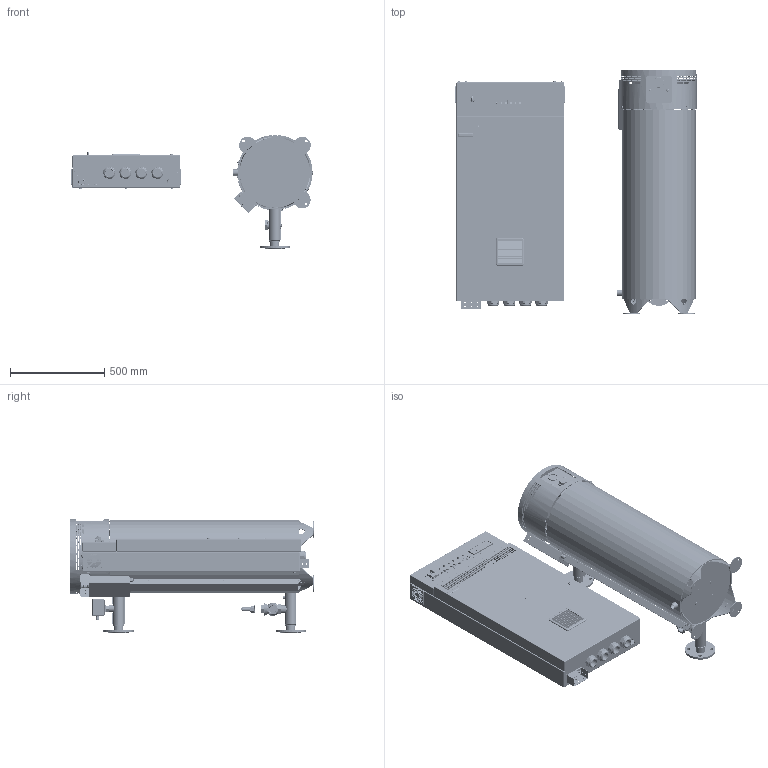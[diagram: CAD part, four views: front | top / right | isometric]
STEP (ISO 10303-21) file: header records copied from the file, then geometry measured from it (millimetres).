
FILE_DESCRIPTION(/* description */ (''),/* implementation_level */ '2;1');
FILE_NAME(/* name */ 'Z:\!!!Обмен файлами\Маркелова Л.В\Задача 193\150-200\Водонагреватель 150-200 кВт.stp',/* time_stamp */ '2023-07-10T13:51:04+03:00',/* author */ ('nvsk-constr2'),/* organization */ (''),/* preprocessor_version */ 'ST-DEVELOPER v18.1',/* originating_system */ 'Autodesk Inventor 2021',/* authorisation */ '');
FILE_SCHEMA (('AUTOMOTIVE_DESIGN { 1 0 10303 214 3 1 1 }'));
Products named in the file (3): Водонагреватель 
150-200 кВт; 421457.005 ШАУ-250_Shrinkwrap_1; 621179.009 АВП-НП-08_S
hrinkwrap_1
Assembly tree (2 placements, depth 2):
  Водонагреватель 
150-200 кВт
    421457.005 ШАУ-250_Shrinkwrap_1
    621179.009 АВП-НП-08_S
hrinkwrap_1
Bounding box: 1275.92 x 1289 x 603.84 mm (x, y, z)
Surface area: 12744231 mm2 (no closed solid volume)
Topology: 0 solids, 245 shells, 3791 faces, 12086 edges, 8400 vertices
Faces by surface type: plane 1909, cylinder 1228, cone 364, torus 178, bspline 68, sphere 44
Full cylindrical faces by diameter (mm): 2 x1, 3.242 x7, 4 x6, 4.317 x2, 4.5 x5, 4.917 x1, 5.5 x3, 5.9 x5, 6 x10, 6.5 x12, 7 x19, 7.119 x1, 7.834 x2, 8 x12, 8.5 x8, 8.8 x2, 9 x15, 9.936 x1, 10 x8, 10.106 x1, 11.4 x6, 11.433 x2, 11.5 x9, 11.63 x5, 12 x5, 13 x10, 13.157 x1, 13.562 x1, 14 x10, 14.367 x1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
Entity records: 154098 total; most frequent: CARTESIAN_POINT 39411, DIRECTION 23385, ORIENTED_EDGE 21252, EDGE_CURVE 12078, AXIS2_PLACEMENT_3D 8589, VERTEX_POINT 8400, LINE 6207, VECTOR 6207
